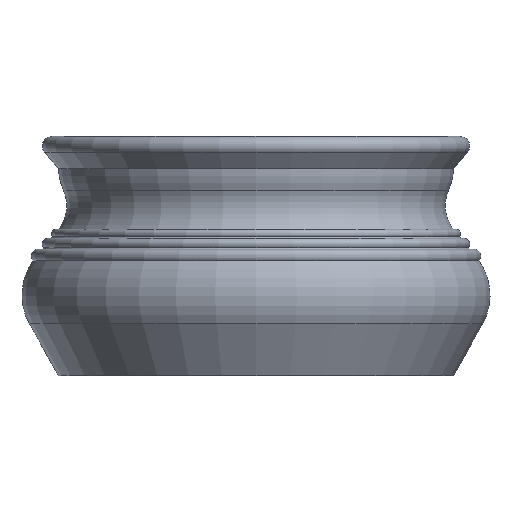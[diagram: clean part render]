
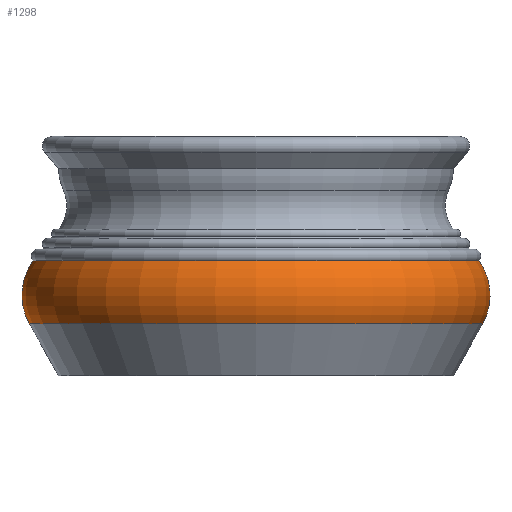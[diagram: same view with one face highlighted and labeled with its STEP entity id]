
A CAD part, front view. The second image highlights one B-rep face of the part: STEP entity #1298.
In plain terms, the highlighted toroidal (fillet/blend) face has major radius 91.81 mm and minor radius 30.55 mm.
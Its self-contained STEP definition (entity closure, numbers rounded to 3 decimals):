
#22=TOROIDAL_SURFACE('',#1475,91.81,30.55);
#164=FACE_OUTER_BOUND('',#280,.T.);
#280=EDGE_LOOP('',(#1187,#1188,#1189,#1190));
#517=CIRCLE('',#1439,118.488);
#539=CIRCLE('',#1476,116.512);
#540=CIRCLE('',#1477,30.55);
#642=VERTEX_POINT('',#2198);
#657=VERTEX_POINT('',#2257);
#805=EDGE_CURVE('',#642,#642,#517,.T.);
#834=EDGE_CURVE('',#657,#657,#539,.T.);
#835=EDGE_CURVE('',#657,#642,#540,.T.);
#1187=ORIENTED_EDGE('',*,*,#834,.F.);
#1188=ORIENTED_EDGE('',*,*,#835,.T.);
#1189=ORIENTED_EDGE('',*,*,#805,.T.);
#1190=ORIENTED_EDGE('',*,*,#835,.F.);
#1298=ADVANCED_FACE('',(#164),#22,.T.);
#1439=AXIS2_PLACEMENT_3D('',#2199,#1805,#1806);
#1475=AXIS2_PLACEMENT_3D('',#2256,#1884,#1885);
#1476=AXIS2_PLACEMENT_3D('',#2258,#1886,#1887);
#1477=AXIS2_PLACEMENT_3D('',#2259,#1888,#1889);
#1805=DIRECTION('center_axis',(0.,0.,1.));
#1806=DIRECTION('ref_axis',(1.,0.,0.));
#1884=DIRECTION('center_axis',(0.,0.,1.));
#1885=DIRECTION('ref_axis',(1.,0.,0.));
#1886=DIRECTION('center_axis',(0.,0.,1.));
#1887=DIRECTION('ref_axis',(1.,0.,0.));
#1888=DIRECTION('center_axis',(0.,-1.,0.));
#1889=DIRECTION('ref_axis',(-1.,0.,0.));
#2198=CARTESIAN_POINT('',(-118.488,0.,27.115));
#2199=CARTESIAN_POINT('Origin',(0.,0.,27.115));
#2256=CARTESIAN_POINT('Origin',(0.,0.,42.));
#2257=CARTESIAN_POINT('',(-116.512,0.,59.976));
#2258=CARTESIAN_POINT('Origin',(0.,0.,59.976));
#2259=CARTESIAN_POINT('Origin',(-91.81,0.,
42.));
